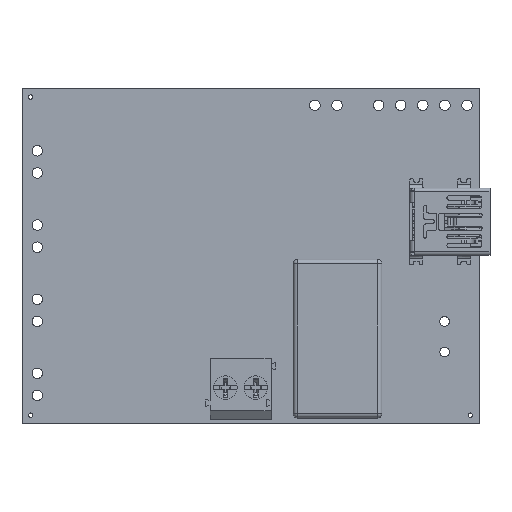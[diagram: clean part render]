
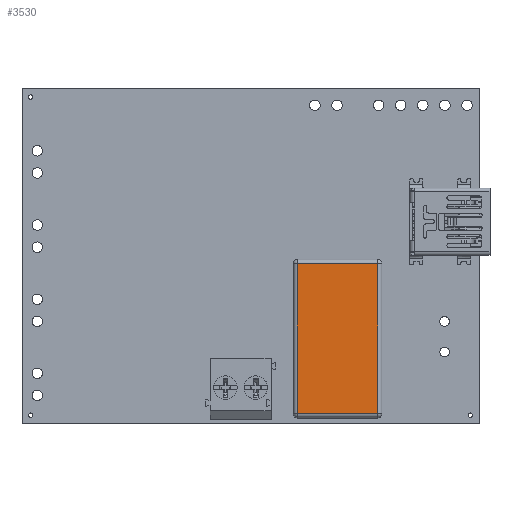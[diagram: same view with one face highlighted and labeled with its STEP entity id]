
A CAD part, top view. The second image highlights one B-rep face of the part: STEP entity #3530.
In plain terms, the highlighted planar face has unit normal (0, 0, 1) as drawn and (0, 0, -1) by its records, which use the part's own axes.
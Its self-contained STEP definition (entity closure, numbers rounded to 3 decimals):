
#2106 = CYLINDRICAL_SURFACE('',#2107,0.5);
#2107 = AXIS2_PLACEMENT_3D('',#2108,#2109,#2110);
#2108 = CARTESIAN_POINT('',(32.826,-4.6,-14.1));
#2109 = DIRECTION('',(-1.,0.,0.));
#2110 = DIRECTION('',(0.,0.,-1.));
#2625 = CYLINDRICAL_SURFACE('',#2626,0.5);
#2626 = AXIS2_PLACEMENT_3D('',#2627,#2628,#2629);
#2627 = CARTESIAN_POINT('',(8.6,18.397,-14.1));
#2628 = DIRECTION('',(0.,-1.,0.));
#2629 = DIRECTION('',(0.,0.,-1.));
#2734 = CYLINDRICAL_SURFACE('',#2735,0.5);
#2735 = AXIS2_PLACEMENT_3D('',#2736,#2737,#2738);
#2736 = CARTESIAN_POINT('',(-32.826,4.6,-14.1));
#2737 = DIRECTION('',(1.,0.,0.));
#2738 = DIRECTION('',(0.,0.,-1.));
#3273 = CYLINDRICAL_SURFACE('',#3274,0.5);
#3274 = AXIS2_PLACEMENT_3D('',#3275,#3276,#3277);
#3275 = CARTESIAN_POINT('',(-8.6,-18.397,-14.1));
#3276 = DIRECTION('',(0.,1.,0.));
#3277 = DIRECTION('',(0.,0.,-1.));
#3292 = VERTEX_POINT('',#3293);
#3293 = CARTESIAN_POINT('',(-8.6,4.6,-14.6));
#3337 = EDGE_CURVE('',#3338,#3292,#3340,.T.);
#3338 = VERTEX_POINT('',#3339);
#3339 = CARTESIAN_POINT('',(-8.6,-4.6,-14.6));
#3340 = SURFACE_CURVE('',#3341,(#3345,#3352),.PCURVE_S1.);
#3341 = LINE('',#3342,#3343);
#3342 = CARTESIAN_POINT('',(-8.6,-4.6,-14.6));
#3343 = VECTOR('',#3344,1.);
#3344 = DIRECTION('',(0.,1.,0.));
#3345 = PCURVE('',#3273,#3346);
#3346 = DEFINITIONAL_REPRESENTATION('',(#3347),#3351);
#3347 = LINE('',#3348,#3349);
#3348 = CARTESIAN_POINT('',(0.,13.797));
#3349 = VECTOR('',#3350,1.);
#3350 = DIRECTION('',(0.,1.));
#3351 = ( GEOMETRIC_REPRESENTATION_CONTEXT(2) 
PARAMETRIC_REPRESENTATION_CONTEXT() REPRESENTATION_CONTEXT('2D SPACE',''
  ) );
#3352 = PCURVE('',#3353,#3358);
#3353 = PLANE('',#3354);
#3354 = AXIS2_PLACEMENT_3D('',#3355,#3356,#3357);
#3355 = CARTESIAN_POINT('',(0.,0.,-14.6));
#3356 = DIRECTION('',(0.,0.,1.));
#3357 = DIRECTION('',(1.,0.,-0.));
#3358 = DEFINITIONAL_REPRESENTATION('',(#3359),#3363);
#3359 = LINE('',#3360,#3361);
#3360 = CARTESIAN_POINT('',(-8.6,-4.6));
#3361 = VECTOR('',#3362,1.);
#3362 = DIRECTION('',(0.,1.));
#3363 = ( GEOMETRIC_REPRESENTATION_CONTEXT(2) 
PARAMETRIC_REPRESENTATION_CONTEXT() REPRESENTATION_CONTEXT('2D SPACE',''
  ) );
#3463 = VERTEX_POINT('',#3464);
#3464 = CARTESIAN_POINT('',(8.6,-4.6,-14.6));
#3510 = EDGE_CURVE('',#3463,#3338,#3511,.T.);
#3511 = SURFACE_CURVE('',#3512,(#3516,#3523),.PCURVE_S1.);
#3512 = LINE('',#3513,#3514);
#3513 = CARTESIAN_POINT('',(8.6,-4.6,-14.6));
#3514 = VECTOR('',#3515,1.);
#3515 = DIRECTION('',(-1.,0.,0.));
#3516 = PCURVE('',#2106,#3517);
#3517 = DEFINITIONAL_REPRESENTATION('',(#3518),#3522);
#3518 = LINE('',#3519,#3520);
#3519 = CARTESIAN_POINT('',(0.,24.226));
#3520 = VECTOR('',#3521,1.);
#3521 = DIRECTION('',(0.,1.));
#3522 = ( GEOMETRIC_REPRESENTATION_CONTEXT(2) 
PARAMETRIC_REPRESENTATION_CONTEXT() REPRESENTATION_CONTEXT('2D SPACE',''
  ) );
#3523 = PCURVE('',#3353,#3524);
#3524 = DEFINITIONAL_REPRESENTATION('',(#3525),#3529);
#3525 = LINE('',#3526,#3527);
#3526 = CARTESIAN_POINT('',(8.6,-4.6));
#3527 = VECTOR('',#3528,1.);
#3528 = DIRECTION('',(-1.,0.));
#3529 = ( GEOMETRIC_REPRESENTATION_CONTEXT(2) 
PARAMETRIC_REPRESENTATION_CONTEXT() REPRESENTATION_CONTEXT('2D SPACE',''
  ) );
#3530 = ADVANCED_FACE('',(#3531),#3353,.F.);
#3531 = FACE_BOUND('',#3532,.F.);
#3532 = EDGE_LOOP('',(#3533,#3534,#3535,#3558));
#3533 = ORIENTED_EDGE('',*,*,#3337,.F.);
#3534 = ORIENTED_EDGE('',*,*,#3510,.F.);
#3535 = ORIENTED_EDGE('',*,*,#3536,.F.);
#3536 = EDGE_CURVE('',#3537,#3463,#3539,.T.);
#3537 = VERTEX_POINT('',#3538);
#3538 = CARTESIAN_POINT('',(8.6,4.6,-14.6));
#3539 = SURFACE_CURVE('',#3540,(#3544,#3551),.PCURVE_S1.);
#3540 = LINE('',#3541,#3542);
#3541 = CARTESIAN_POINT('',(8.6,4.6,-14.6));
#3542 = VECTOR('',#3543,1.);
#3543 = DIRECTION('',(0.,-1.,0.));
#3544 = PCURVE('',#3353,#3545);
#3545 = DEFINITIONAL_REPRESENTATION('',(#3546),#3550);
#3546 = LINE('',#3547,#3548);
#3547 = CARTESIAN_POINT('',(8.6,4.6));
#3548 = VECTOR('',#3549,1.);
#3549 = DIRECTION('',(0.,-1.));
#3550 = ( GEOMETRIC_REPRESENTATION_CONTEXT(2) 
PARAMETRIC_REPRESENTATION_CONTEXT() REPRESENTATION_CONTEXT('2D SPACE',''
  ) );
#3551 = PCURVE('',#2625,#3552);
#3552 = DEFINITIONAL_REPRESENTATION('',(#3553),#3557);
#3553 = LINE('',#3554,#3555);
#3554 = CARTESIAN_POINT('',(0.,13.797));
#3555 = VECTOR('',#3556,1.);
#3556 = DIRECTION('',(0.,1.));
#3557 = ( GEOMETRIC_REPRESENTATION_CONTEXT(2) 
PARAMETRIC_REPRESENTATION_CONTEXT() REPRESENTATION_CONTEXT('2D SPACE',''
  ) );
#3558 = ORIENTED_EDGE('',*,*,#3559,.F.);
#3559 = EDGE_CURVE('',#3292,#3537,#3560,.T.);
#3560 = SURFACE_CURVE('',#3561,(#3565,#3572),.PCURVE_S1.);
#3561 = LINE('',#3562,#3563);
#3562 = CARTESIAN_POINT('',(-8.6,4.6,-14.6));
#3563 = VECTOR('',#3564,1.);
#3564 = DIRECTION('',(1.,0.,0.));
#3565 = PCURVE('',#3353,#3566);
#3566 = DEFINITIONAL_REPRESENTATION('',(#3567),#3571);
#3567 = LINE('',#3568,#3569);
#3568 = CARTESIAN_POINT('',(-8.6,4.6));
#3569 = VECTOR('',#3570,1.);
#3570 = DIRECTION('',(1.,0.));
#3571 = ( GEOMETRIC_REPRESENTATION_CONTEXT(2) 
PARAMETRIC_REPRESENTATION_CONTEXT() REPRESENTATION_CONTEXT('2D SPACE',''
  ) );
#3572 = PCURVE('',#2734,#3573);
#3573 = DEFINITIONAL_REPRESENTATION('',(#3574),#3578);
#3574 = LINE('',#3575,#3576);
#3575 = CARTESIAN_POINT('',(0.,24.226));
#3576 = VECTOR('',#3577,1.);
#3577 = DIRECTION('',(0.,1.));
#3578 = ( GEOMETRIC_REPRESENTATION_CONTEXT(2) 
PARAMETRIC_REPRESENTATION_CONTEXT() REPRESENTATION_CONTEXT('2D SPACE',''
  ) );
